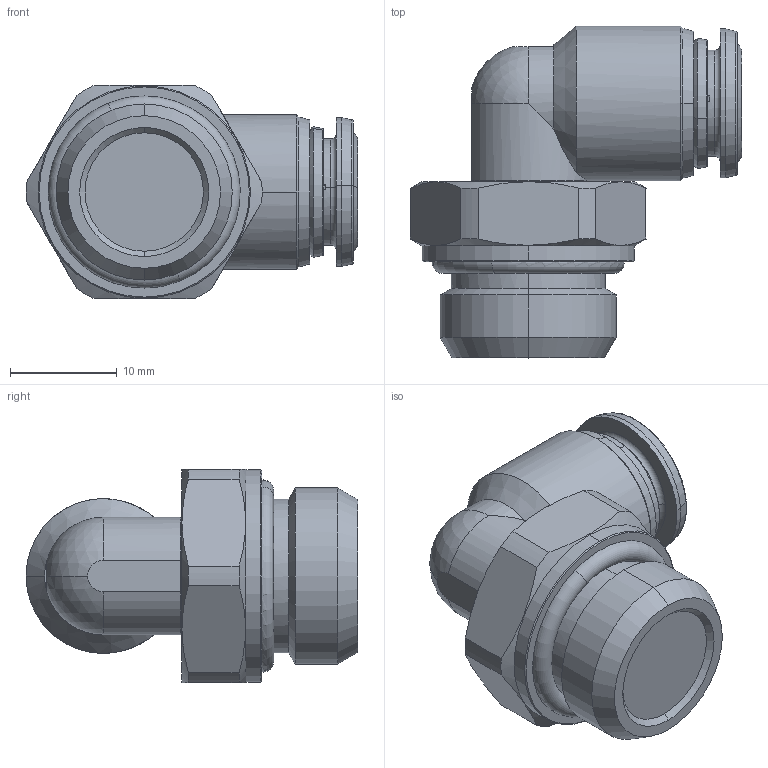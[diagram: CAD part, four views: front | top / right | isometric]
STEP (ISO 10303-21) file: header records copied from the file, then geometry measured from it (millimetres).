
FILE_DESCRIPTION (( 'STEP AP203' ), '1' );
FILE_NAME ('60115X0016.STEP', '2023-05-12T12:12:58', ( '' ), ( '' ), 'SwSTEP 2.0', 'SolidWorks 2020', '' );
FILE_SCHEMA (( 'CONFIG_CONTROL_DESIGN' ));
Length unit declared in the file: millimetre
Products named in the file (1): 60115X0016
Bounding box: 31.05 x 31.1 x 20 mm (x, y, z)
Volume: 7682.5 mm3; surface area: 2955.4 mm2
Topology: 1 solids, 1 shells, 109 faces, 272 edges, 168 vertices
Faces by surface type: cone 34, plane 34, cylinder 29, torus 10, sphere 2
Entity records: 3479 total; most frequent: CARTESIAN_POINT 746, DIRECTION 598, ORIENTED_EDGE 540, EDGE_CURVE 270, AXIS2_PLACEMENT_3D 252, VERTEX_POINT 168, CIRCLE 142, EDGE_LOOP 122
